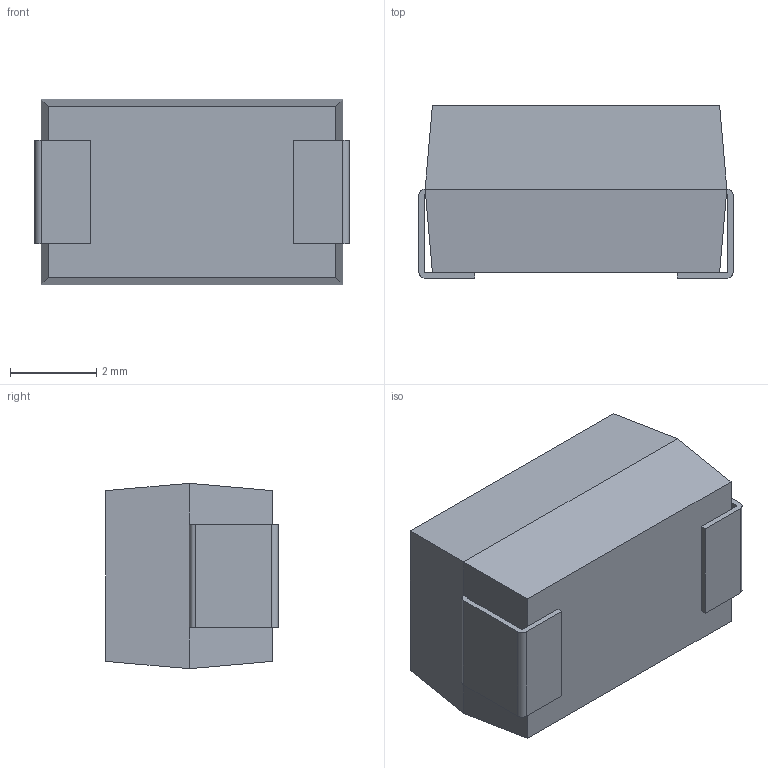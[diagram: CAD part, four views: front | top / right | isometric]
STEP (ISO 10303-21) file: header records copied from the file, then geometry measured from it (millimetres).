
FILE_DESCRIPTION (( 'STEP AP214' ), '1' );
FILE_NAME ('T520Y108M2R5ATE010.STEP', '2021-10-21T20:31:44', ( '' ), ( '' ), 'SwSTEP 2.0', 'SolidWorks 2020', '' );
FILE_SCHEMA (( 'AUTOMOTIVE_DESIGN' ));
Length unit declared in the file: millimetre
Products named in the file (1): T520Y108M2R5ATE010
Bounding box: 7.3 x 4 x 4.3 mm (x, y, z)
Volume: 111.2 mm3; surface area: 183 mm2
Topology: 5 solids, 5 shells, 72 faces, 172 edges, 112 vertices
Faces by surface type: plane 58, cylinder 14
Entity records: 2130 total; most frequent: CARTESIAN_POINT 357, DIRECTION 346, ORIENTED_EDGE 344, EDGE_CURVE 172, LINE 144, VECTOR 144, VERTEX_POINT 112, AXIS2_PLACEMENT_3D 101
